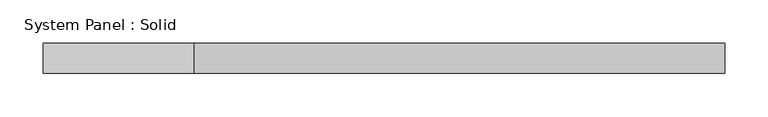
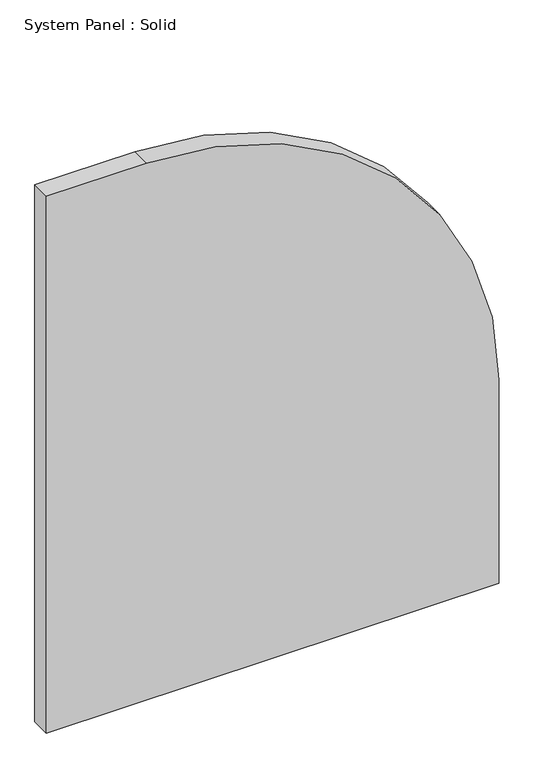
"""IFC4 building model written with IfcOpenShell, lengths in millimetres: plate geometry, System Panel : Solid."""

from ifc_helpers import new_model, si_unit, point, frame, frame_2d, origin, place, context, project, spatial, polyline, circle_curve, trimmed, segment, composite_curve, outline, extrude, source, transform, mapped, element, save


def system_panel_solid_6ef3f340(model_context):
    return source(origin(), model_context, "Body", "SweptSolid", [
        extrude(outline(composite_curve([segment(polyline([(0.0, -394.9999998), (0.0, 394.9999998), (375.0, 394.9999998)]), True, "CONTINUOUS"), segment(trimmed(circle_curve(frame_2d((375.0, -220.0000002)), 615.0), [point((375.0, 394.9999998))], [point((990.0, -220.0000002))], False, "CARTESIAN"), True, "CONTINUOUS"), segment(polyline([(990.0, -220.0000002), (990.0, -394.9999998), (0.0, -394.9999998)]), True, "CONTINUOUS")], self_intersect=False)), frame((0.0, -2.5, 0.0), z_axis=(0.0, 1.0, 0.0), x_axis=(0.0, 0.0, 1.0)), (0.0, 0.0, 1.0), 35.0),
    ])


if __name__ == "__main__":
    model = new_model("IFC4")
    model_context = context("Model", 3, world=origin())
    ifc_project = project(units=[si_unit("LENGTHUNIT", "METRE", prefix="MILLI")], contexts=[model_context])
    site = spatial("IfcSite", under=ifc_project)
    building = spatial("IfcBuilding", under=site)
    placement = place(None, origin())
    system_panel_solid_shape = system_panel_solid_6ef3f340(model_context)
    element("IfcPlate", 1, ObjectType="System Panel : Solid", at=placement, inside=building, context=model_context, shape_type="MappedRepresentation", body=[
        mapped(system_panel_solid_shape, transform((0.0, 0.0, 0.0), x_axis=(1.0, 0.0, 0.0), y_axis=(0.0, 1.0, 0.0), z_axis=(0.0, 0.0, 1.0))),
    ])
    save(model, "model.ifc")
